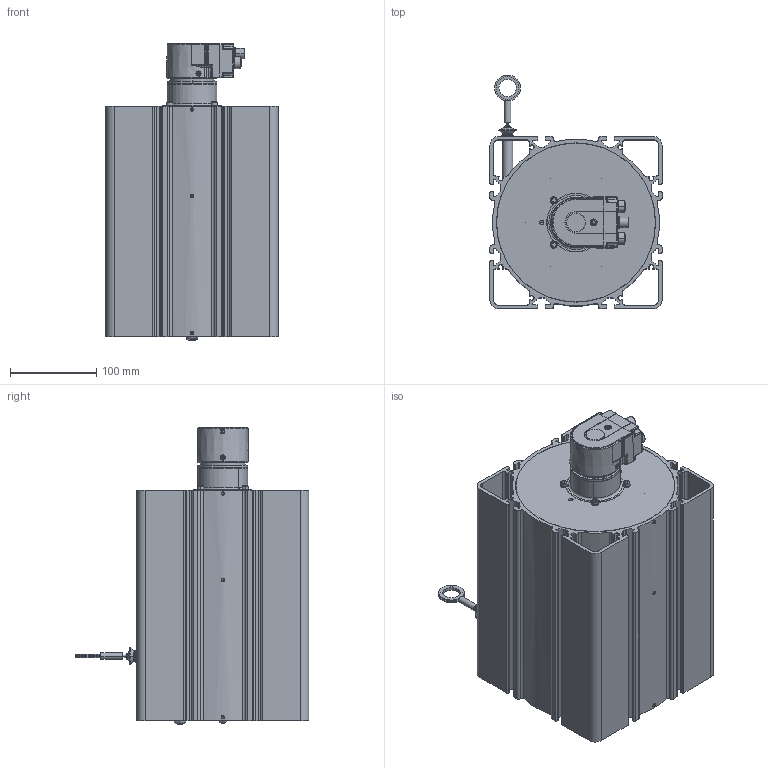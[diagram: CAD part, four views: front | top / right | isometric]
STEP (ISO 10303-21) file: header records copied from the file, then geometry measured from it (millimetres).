
FILE_DESCRIPTION((''),'2;1');
FILE_NAME('WDS-30000-P200-BH-PN_02_ASM','2024-05-29T07:50:16',('15000597'),(''),'CREO PARAMETRIC BY PTC INC, 2022164','CREO PARAMETRIC BY PTC INC, 2022164','');
FILE_SCHEMA(('AUTOMOTIVE_DESIGN { 1 0 10303 214 1 1 1 1 }'));
Products named in the file (44): TELESO_SENZORU_30M_P200_AF0; HRIDEL_MOTORU_30-40M_P200_AF0; BOCNICE_VNEJSI_P200_AF0; LOZISKO_6000_10X26X8_AF1; PREDNI_STENA_P200_DIRA_S_POJIST_AF0; SROUB_ISO7380_COC_HEX_C_M5X10_AF0; TRUBKA_PRUCHODKY_P200_AF0; PRUCHODKA_P200; GUMOVY_VLNOVEC; STIRATKO_LANKO_FORMA_0I8; DUTY_NYT_A_3X10; GP_7I5X2I0X25_EXT_EPDM60; LANKO_7X7_0I63_0I8_AF0; OKO_LANKA_TRE; CU_HULSE_2X1I4X5_AF0; SPOJKA_GS5_PR6_2I1_AF0; KOLIK_PRUZNY_2X8_AF0; SROUB_ISO4026_STAV_HEX_M4X4_AF0; SROUB_ISO4026_STAV_HEX_M4X4_AF1; SROUB_ISO4026_STAV_HEX_M4X4_AF2; SROUB_ISO4026_STAV_HEX_M4X4_AF3; SROUB_ISO4026_STAV_HEX_M4X4_AF4; SROUB_ISO4026_STAV_HEX_M4X4_AF5; SROUB_ISO4026_STAV_HEX_M4X4_AF6; SROUB_ISO4026_STAV_HEX_M4X4_AF7; SROUB_ISO4026_STAV_HEX_M4X4_AF8; SROUB_ISO4026_STAV_HEX_M4X4_AF9; SROUB_ISO4026_STAV_HEX_M4X4_AF10; SROUB_ISO4026_STAV_HEX_M4X4_AF11; PRIRUBA_SYNCHRO_P96_P200_AF0; PODLOZKA_M4_VEJIROVA_AF3; PODLOZKA_M4_VEJIROVA_AF4; PODLOZKA_M4_VEJIROVA_AF5; PODLOZKA_M4_VEJIROVA_AF6; SROUB_ISO4762_VALC_HEX_M4X6_AF0; SROUB_ISO4762_VALC_HEX_M4X6_AF1; SROUB_ISO4762_VALC_HEX_M4X6_AF2; SROUB_ISO4762_VALC_HEX_M4X6_AF3; SPOJKA_KRIZ_AF0; SPOJKA_GS5_PR6_AF0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
Assembly tree (43 placements, depth 2):
  WDS-30000-P200-BH-PN_02_ASM
    TELESO_SENZORU_30M_P200_AF0
    HRIDEL_MOTORU_30-40M_P200_AF0
    BOCNICE_VNEJSI_P200_AF0
    LOZISKO_6000_10X26X8_AF1
    PREDNI_STENA_P200_DIRA_S_POJIST_AF0
    SROUB_ISO7380_COC_HEX_C_M5X10_AF0
    TRUBKA_PRUCHODKY_P200_AF0
    PRUCHODKA_P200
    GUMOVY_VLNOVEC
    STIRATKO_LANKO_FORMA_0I8
    DUTY_NYT_A_3X10
    GP_7I5X2I0X25_EXT_EPDM60
    LANKO_7X7_0I63_0I8_AF0
    OKO_LANKA_TRE
    CU_HULSE_2X1I4X5_AF0
    SPOJKA_GS5_PR6_2I1_AF0
    KOLIK_PRUZNY_2X8_AF0
    SROUB_ISO4026_STAV_HEX_M4X4_AF0
    SROUB_ISO4026_STAV_HEX_M4X4_AF1
    SROUB_ISO4026_STAV_HEX_M4X4_AF2
    SROUB_ISO4026_STAV_HEX_M4X4_AF3
    SROUB_ISO4026_STAV_HEX_M4X4_AF4
    SROUB_ISO4026_STAV_HEX_M4X4_AF5
    SROUB_ISO4026_STAV_HEX_M4X4_AF6
    SROUB_ISO4026_STAV_HEX_M4X4_AF7
    SROUB_ISO4026_STAV_HEX_M4X4_AF8
    SROUB_ISO4026_STAV_HEX_M4X4_AF9
    SROUB_ISO4026_STAV_HEX_M4X4_AF10
    SROUB_ISO4026_STAV_HEX_M4X4_AF11
    PRIRUBA_SYNCHRO_P96_P200_AF0
    PODLOZKA_M4_VEJIROVA_AF3
    PODLOZKA_M4_VEJIROVA_AF4
    PODLOZKA_M4_VEJIROVA_AF5
    PODLOZKA_M4_VEJIROVA_AF6
    SROUB_ISO4762_VALC_HEX_M4X6_AF0
    SROUB_ISO4762_VALC_HEX_M4X6_AF1
    SROUB_ISO4762_VALC_HEX_M4X6_AF2
    SROUB_ISO4762_VALC_HEX_M4X6_AF3
    SPOJKA_KRIZ_AF0
    SPOJKA_GS5_PR6_AF0
    SROUB_ISO4029_STAV_HEX_M3X3_AF0
    SROUB_ISO7380_COC_HEX_M8X8_AF0
    BAU_SYNCHRO_PN_EAL580-SV6I4WPT_AF0
Bounding box: 200 x 271.7 x 345 mm (x, y, z)
Volume: 1845174.1 mm3; surface area: 814175.7 mm2
Topology: 35 solids, 72 shells, 2467 faces, 6471 edges, 4123 vertices
Faces by surface type: plane 1132, cylinder 747, cone 273, torus 187, bspline 78, sphere 34, revolution 16
Entity records: 118457 total; most frequent: CARTESIAN_POINT 33446, DIRECTION 12872, ORIENTED_EDGE 12630, EDGE_CURVE 6405, AXIS2_PLACEMENT_3D 4784, PRESENTATION_STYLE_ASSIGNMENT 4523, STYLED_ITEM 4523, VERTEX_POINT 4123
